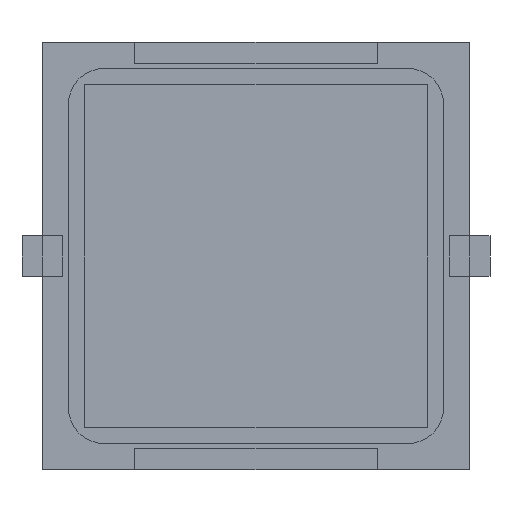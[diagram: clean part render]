
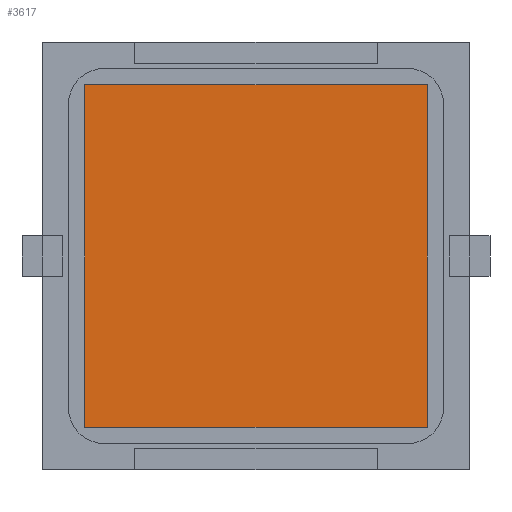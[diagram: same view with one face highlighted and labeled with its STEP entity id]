
A CAD part, front view. The second image highlights one B-rep face of the part: STEP entity #3617.
In plain terms, the highlighted planar face has unit normal (0, -1, 0).
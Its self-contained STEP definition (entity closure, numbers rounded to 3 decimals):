
#3 = ORIENTED_EDGE ( 'NONE', *, *, #2021, .F. ) ;
#401 = DIRECTION ( 'NONE',  ( -1., 0., 0. ) ) ;
#474 = LINE ( 'NONE', #3374, #2925 ) ;
#746 = CARTESIAN_POINT ( 'NONE',  ( -8.5, -0.1, -8.5 ) ) ;
#792 = EDGE_CURVE ( 'NONE', #1961, #4091, #2311, .T. ) ;
#923 = ORIENTED_EDGE ( 'NONE', *, *, #2337, .F. ) ;
#956 = EDGE_LOOP ( 'NONE', ( #1518, #923, #3, #3165 ) ) ;
#1096 = CARTESIAN_POINT ( 'NONE',  ( -8.5, -0.1, 8.5 ) ) ;
#1192 = LINE ( 'NONE', #4502, #3404 ) ;
#1422 = VERTEX_POINT ( 'NONE', #746 ) ;
#1457 = VECTOR ( 'NONE', #3378, 1000. ) ;
#1502 = CARTESIAN_POINT ( 'NONE',  ( -8.5, -0.1, -8.5 ) ) ;
#1518 = ORIENTED_EDGE ( 'NONE', *, *, #4786, .F. ) ;
#1687 = PLANE ( 'NONE',  #2159 ) ;
#1961 = VERTEX_POINT ( 'NONE', #1096 ) ;
#2021 = EDGE_CURVE ( 'NONE', #4091, #4365, #1192, .T. ) ;
#2041 = FACE_OUTER_BOUND ( 'NONE', #956, .T. ) ;
#2159 = AXIS2_PLACEMENT_3D ( 'NONE', #4012, #3266, #2590 ) ;
#2237 = DIRECTION ( 'NONE',  ( 0., 0., -1. ) ) ;
#2278 = DIRECTION ( 'NONE',  ( 0., 0., 1. ) ) ;
#2311 = LINE ( 'NONE', #3840, #1457 ) ;
#2337 = EDGE_CURVE ( 'NONE', #4365, #1422, #474, .T. ) ;
#2567 = VECTOR ( 'NONE', #2278, 1000. ) ;
#2590 = DIRECTION ( 'NONE',  ( 0., 0., 1. ) ) ;
#2825 = CARTESIAN_POINT ( 'NONE',  ( 8.5, -0.1, 8.5 ) ) ;
#2925 = VECTOR ( 'NONE', #401, 1000. ) ;
#3165 = ORIENTED_EDGE ( 'NONE', *, *, #792, .F. ) ;
#3266 = DIRECTION ( 'NONE',  ( 0., 1., 0. ) ) ;
#3374 = CARTESIAN_POINT ( 'NONE',  ( -8.5, -0.1, -8.5 ) ) ;
#3378 = DIRECTION ( 'NONE',  ( 1., 0., 0. ) ) ;
#3404 = VECTOR ( 'NONE', #2237, 1000. ) ;
#3617 = ADVANCED_FACE ( 'NONE', ( #2041 ), #1687, .F. ) ;
#3840 = CARTESIAN_POINT ( 'NONE',  ( -8.5, -0.1, 8.5 ) ) ;
#4012 = CARTESIAN_POINT ( 'NONE',  ( -8.5, -0.1, 8.5 ) ) ;
#4091 = VERTEX_POINT ( 'NONE', #2825 ) ;
#4177 = LINE ( 'NONE', #1502, #2567 ) ;
#4365 = VERTEX_POINT ( 'NONE', #4555 ) ;
#4502 = CARTESIAN_POINT ( 'NONE',  ( 8.5, -0.1, -8.5 ) ) ;
#4555 = CARTESIAN_POINT ( 'NONE',  ( 8.5, -0.1, -8.5 ) ) ;
#4786 = EDGE_CURVE ( 'NONE', #1422, #1961, #4177, .T. ) ;
